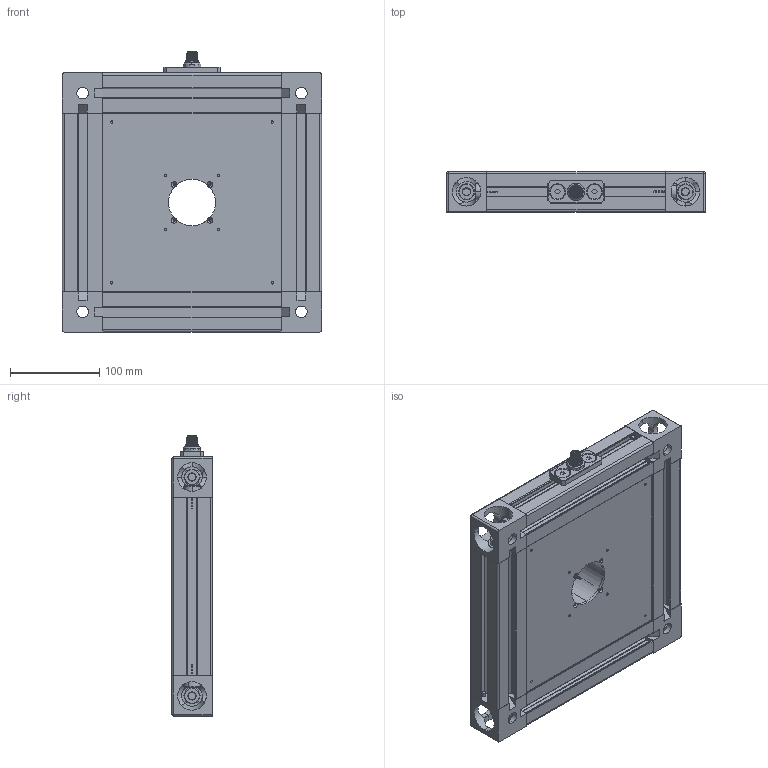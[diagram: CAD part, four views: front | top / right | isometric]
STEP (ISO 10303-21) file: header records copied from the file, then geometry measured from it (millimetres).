
FILE_DESCRIPTION (( 'STEP AP214' ), '1' );
FILE_NAME ('RL200x200.STEP', '2021-08-06T13:49:19', ( '' ), ( '' ), 'SwSTEP 2.0', 'SolidWorks 2021', '' );
FILE_SCHEMA (( 'AUTOMOTIVE_DESIGN' ));
Length unit declared in the file: millimetre
Products named in the file (15): Screws -- short_FB08.0-015; Screw holder; RL200x200; Lens_459X153; RL CENTER RING_200; RL CENTER RING_300; 93070A241_93070A241; M12_Male; BP-RL-200x200_RL-200; Input Mounting Plate_A; (4-40_3-8_ THREAD FORMING) (SC0032) 92750A107_PAN HEAD THREAD-FORMING SCREW FOR SHEET METAL_92750A107; M12 Nut; Bosch Gusset - 3 842 523 874_New cube; 4545-EXT01-R2_200; Input Assembly
Assembly tree (32 placements, depth 3):
  RL200x200
    93070A241_93070A241  x8
    Bosch Gusset - 3 842 523 874_New cube  x4
    4545-EXT01-R2_200  x4
    Lens_459X153
    Input Assembly
      M12_Male
      Input Mounting Plate_A
      Screws -- short_FB08.0-015  x2
      Screw holder  x2
      M12 Nut
    RL CENTER RING_300
    RL CENTER RING_200
    (4-40_3-8_ THREAD FORMING) (SC0032) 92750A107_PAN HEAD THREAD-FORMING SCREW FOR SHEET METAL_92750A107  x4
    BP-RL-200x200_RL-200
Bounding box: 290 x 45.01 x 313.47 mm (x, y, z)
Volume: 1055064.2 mm3; surface area: 734552.3 mm2
Topology: 31 solids, 32 shells, 2440 faces, 6590 edges, 4276 vertices
Faces by surface type: cylinder 1376, plane 650, bspline 202, cone 188, torus 20, sphere 4
Entity records: 53933 total; most frequent: CARTESIAN_POINT 30021, ORIENTED_EDGE 4712, DIRECTION 4107, EDGE_CURVE 2356, VERTEX_POINT 1537, AXIS2_PLACEMENT_3D 1526, VECTOR 1055, LINE 1055
